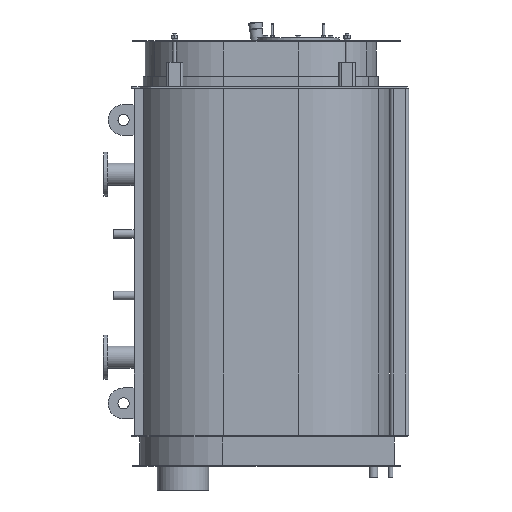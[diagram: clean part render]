
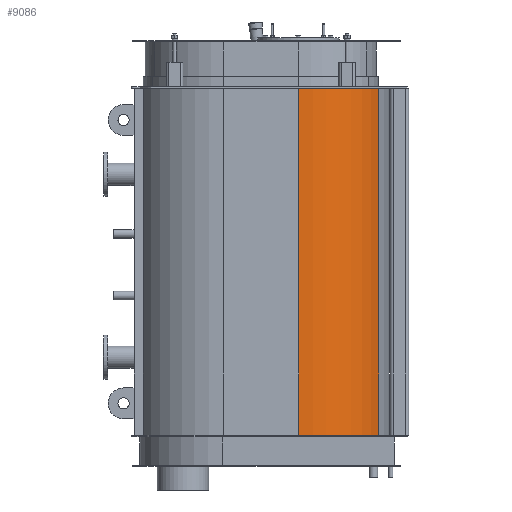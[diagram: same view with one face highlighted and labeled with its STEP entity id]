
A CAD part, left-side view. The second image highlights one B-rep face of the part: STEP entity #9086.
In plain terms, the highlighted cylindrical face has radius 438.083 mm (diameter 876.167 mm), a partial arc.
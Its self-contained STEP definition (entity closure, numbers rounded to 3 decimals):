
#106 = AXIS2_PLACEMENT_3D ( 'NONE', #2885, #10442, #3968 ) ;
#626 = DIRECTION ( 'NONE',  ( 0., 0., -1. ) ) ;
#709 = VECTOR ( 'NONE', #626, 1000. ) ;
#800 = EDGE_CURVE ( 'NONE', #3884, #3651, #11901, .T. ) ;
#975 = ORIENTED_EDGE ( 'NONE', *, *, #7629, .F. ) ;
#1616 = EDGE_CURVE ( 'NONE', #12918, #6406, #6269, .T. ) ;
#1764 = CIRCLE ( 'NONE', #106, 438.083 ) ;
#2885 = CARTESIAN_POINT ( 'NONE',  ( 0., -3.277, 1698. ) ) ;
#3050 = CARTESIAN_POINT ( 'NONE',  ( -438.083, -3.277, 1698. ) ) ;
#3651 = VERTEX_POINT ( 'NONE', #7518 ) ;
#3884 = VERTEX_POINT ( 'NONE', #13467 ) ;
#3917 = CARTESIAN_POINT ( 'NONE',  ( 0., -3.277, 1698. ) ) ;
#3968 = DIRECTION ( 'NONE',  ( -1., 0., 0. ) ) ;
#4212 = FACE_OUTER_BOUND ( 'NONE', #13572, .T. ) ;
#4758 = CIRCLE ( 'NONE', #7198, 438.083 ) ;
#4847 = CARTESIAN_POINT ( 'NONE',  ( -200.083, -393., 8. ) ) ;
#5119 = DIRECTION ( 'NONE',  ( 0., 0., 1. ) ) ;
#5805 = ORIENTED_EDGE ( 'NONE', *, *, #12788, .T. ) ;
#6096 = DIRECTION ( 'NONE',  ( 0., 0., -1. ) ) ;
#6269 = LINE ( 'NONE', #12581, #12035 ) ;
#6406 = VERTEX_POINT ( 'NONE', #4847 ) ;
#6444 = CYLINDRICAL_SURFACE ( 'NONE', #6652, 438.083 ) ;
#6652 = AXIS2_PLACEMENT_3D ( 'NONE', #3917, #12582, #10385 ) ;
#7198 = AXIS2_PLACEMENT_3D ( 'NONE', #11582, #5119, #12675 ) ;
#7518 = CARTESIAN_POINT ( 'NONE',  ( -438.083, -3.277, 8. ) ) ;
#7629 = EDGE_CURVE ( 'NONE', #3884, #12918, #1764, .T. ) ;
#7938 = ORIENTED_EDGE ( 'NONE', *, *, #1616, .F. ) ;
#8327 = ORIENTED_EDGE ( 'NONE', *, *, #800, .T. ) ;
#9086 = ADVANCED_FACE ( 'NONE', ( #4212 ), #6444, .T. ) ;
#10385 = DIRECTION ( 'NONE',  ( -1., 0., 0. ) ) ;
#10442 = DIRECTION ( 'NONE',  ( 0., 0., 1. ) ) ;
#11582 = CARTESIAN_POINT ( 'NONE',  ( 0., -3.277, 8. ) ) ;
#11901 = LINE ( 'NONE', #3050, #709 ) ;
#12035 = VECTOR ( 'NONE', #6096, 1000. ) ;
#12581 = CARTESIAN_POINT ( 'NONE',  ( -200.083, -393., 1698. ) ) ;
#12582 = DIRECTION ( 'NONE',  ( 0., 0., -1. ) ) ;
#12675 = DIRECTION ( 'NONE',  ( -1., 0., 0. ) ) ;
#12788 = EDGE_CURVE ( 'NONE', #3651, #6406, #4758, .T. ) ;
#12831 = CARTESIAN_POINT ( 'NONE',  ( -200.083, -393., 1698. ) ) ;
#12918 = VERTEX_POINT ( 'NONE', #12831 ) ;
#13467 = CARTESIAN_POINT ( 'NONE',  ( -438.083, -3.277, 1698. ) ) ;
#13572 = EDGE_LOOP ( 'NONE', ( #5805, #7938, #975, #8327 ) ) ;
